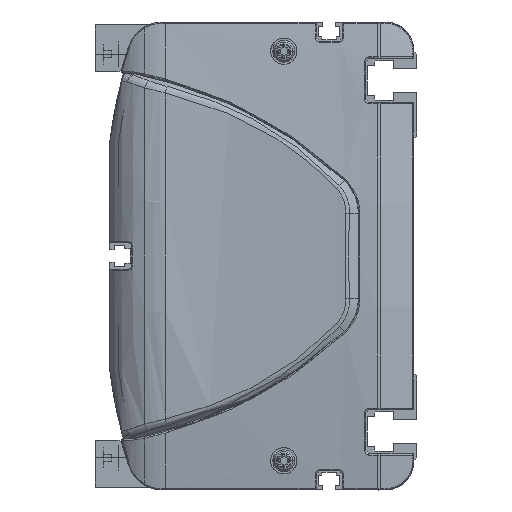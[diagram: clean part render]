
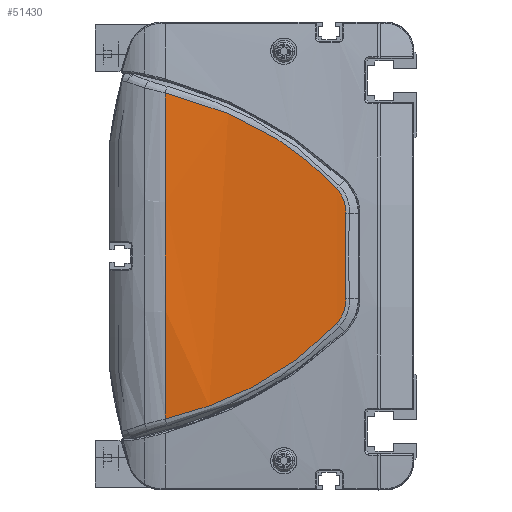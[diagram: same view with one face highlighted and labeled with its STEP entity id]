
A CAD part, left-side view. The second image highlights one B-rep face of the part: STEP entity #51430.
In plain terms, the highlighted cylindrical face has radius 600 mm (diameter 1200 mm), a partial arc.
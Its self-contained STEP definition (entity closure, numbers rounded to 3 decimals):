
#46461=CARTESIAN_POINT('',(-12.406,86.,
55.736));
#46462=CARTESIAN_POINT('',(-12.529,80.495,
54.41));
#46463=CARTESIAN_POINT('',(-12.828,69.636,
51.114));
#46464=CARTESIAN_POINT('',(-13.389,54.079,
44.179));
#46465=CARTESIAN_POINT('',(-14.01,39.709,
34.979));
#46466=CARTESIAN_POINT('',(-14.395,31.353,
27.243));
#46467=CARTESIAN_POINT('',(-14.555,27.451,
23.113));
#46469=CARTESIAN_POINT('',(-14.555,27.451,
23.113));
#46470=CARTESIAN_POINT('',(-14.641,25.336,
20.875));
#46471=CARTESIAN_POINT('',(-14.745,24.202,
17.745));
#46472=CARTESIAN_POINT('',(-14.821,24.351,
14.67));
#46474=CARTESIAN_POINT('',(-14.821,24.351,
14.67));
#46475=CARTESIAN_POINT('',(-14.9,24.51,
11.413));
#46476=CARTESIAN_POINT('',(-15.007,24.721,
4.895));
#46477=CARTESIAN_POINT('',(-15.007,24.721,
-4.895));
#46478=CARTESIAN_POINT('',(-14.9,24.51,
-11.413));
#46479=CARTESIAN_POINT('',(-14.821,24.351,
-14.67));
#46481=CARTESIAN_POINT('',(-14.821,24.351,
-14.67));
#46482=CARTESIAN_POINT('',(-14.745,24.202,
-17.745));
#46483=CARTESIAN_POINT('',(-14.641,25.337,
-20.876));
#46484=CARTESIAN_POINT('',(-14.555,27.451,
-23.113));
#46486=CARTESIAN_POINT('',(-14.555,27.451,
-23.113));
#46487=CARTESIAN_POINT('',(-14.395,31.353,
-27.243));
#46488=CARTESIAN_POINT('',(-14.01,39.709,
-34.979));
#46489=CARTESIAN_POINT('',(-13.389,54.079,
-44.179));
#46490=CARTESIAN_POINT('',(-12.828,69.636,
-51.114));
#46491=CARTESIAN_POINT('',(-12.529,80.495,
-54.41));
#46492=CARTESIAN_POINT('',(-12.406,86.,
-55.736));
#46494=CARTESIAN_POINT('',(585.,86.,0.));
#46495=DIRECTION('',(0.,1.,0.));
#46496=DIRECTION('',(-0.996,0.,-0.093));
#46497=AXIS2_PLACEMENT_3D('',#46494,#46495,#46496);
#46510=CARTESIAN_POINT('',(-12.406,86.,
55.736));
#47017=VERTEX_POINT('',#46510);
#47018=CARTESIAN_POINT('',(-12.406,86.,
-55.736));
#47019=VERTEX_POINT('',#47018);
#47071=VERTEX_POINT('',#46467);
#47072=VERTEX_POINT('',#46472);
#47073=VERTEX_POINT('',#46479);
#47074=VERTEX_POINT('',#46484);
#51412=CARTESIAN_POINT('',(585.,87.45,0.));
#51413=DIRECTION('',(0.,-1.,0.));
#51414=DIRECTION('',(0.,0.,-1.));
#51415=AXIS2_PLACEMENT_3D('',#51412,#51413,#51414);
#51416=CYLINDRICAL_SURFACE('',#51415,600.);
#51418=ORIENTED_EDGE('',*,*,#51417,.T.);
#51420=ORIENTED_EDGE('',*,*,#51419,.T.);
#51421=ORIENTED_EDGE('',*,*,#51402,.T.);
#51423=ORIENTED_EDGE('',*,*,#51422,.T.);
#51425=ORIENTED_EDGE('',*,*,#51424,.T.);
#51427=ORIENTED_EDGE('',*,*,#51426,.T.);
#51428=EDGE_LOOP('',(#51418,#51420,#51421,#51423,#51425,#51427));
#51429=FACE_OUTER_BOUND('',#51428,.F.);
#51430=ADVANCED_FACE('',(#51429),#51416,.T.);
#46468=B_SPLINE_CURVE_WITH_KNOTS('',3,(#46461,#46462,#46463,#46464,#46465,
#46466,#46467),.UNSPECIFIED.,.F.,.F.,(4,1,1,1,4),(0.,0.25,0.5,0.75,
1.),.UNSPECIFIED.);
#46473=B_SPLINE_CURVE_WITH_KNOTS('',3,(#46469,#46470,#46471,#46472),
.UNSPECIFIED.,.F.,.F.,(4,4),(0.,1.),.UNSPECIFIED.);
#46480=B_SPLINE_CURVE_WITH_KNOTS('',3,(#46474,#46475,#46476,#46477,#46478,
#46479),.UNSPECIFIED.,.F.,.F.,(4,1,1,4),(0.,0.333,
0.667,1.),.UNSPECIFIED.);
#46485=B_SPLINE_CURVE_WITH_KNOTS('',3,(#46481,#46482,#46483,#46484),
.UNSPECIFIED.,.F.,.F.,(4,4),(0.,1.),.UNSPECIFIED.);
#46493=B_SPLINE_CURVE_WITH_KNOTS('',3,(#46486,#46487,#46488,#46489,#46490,
#46491,#46492),.UNSPECIFIED.,.F.,.F.,(4,1,1,1,4),(0.,0.25,0.5,0.75,
1.),.UNSPECIFIED.);
#46498=CIRCLE('',#46497,600.);
#51402=EDGE_CURVE('',#47072,#47073,#46480,.T.);
#51417=EDGE_CURVE('',#47017,#47071,#46468,.T.);
#51419=EDGE_CURVE('',#47071,#47072,#46473,.T.);
#51422=EDGE_CURVE('',#47073,#47074,#46485,.T.);
#51424=EDGE_CURVE('',#47074,#47019,#46493,.T.);
#51426=EDGE_CURVE('',#47019,#47017,#46498,.T.);
